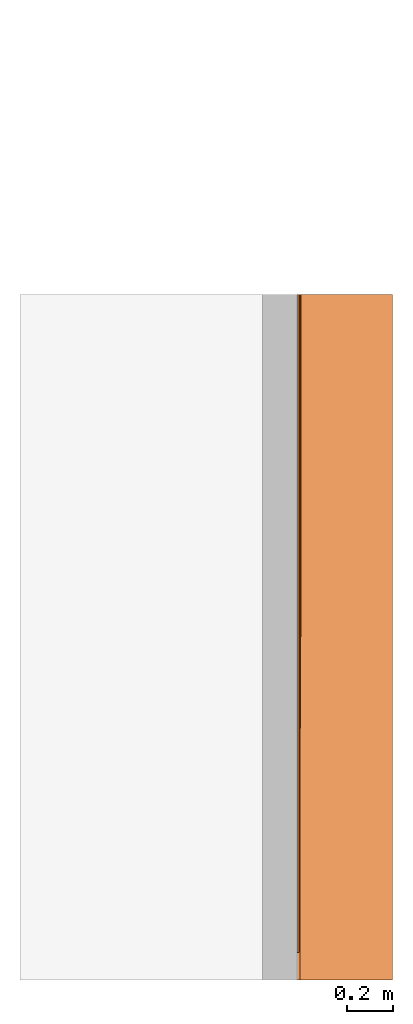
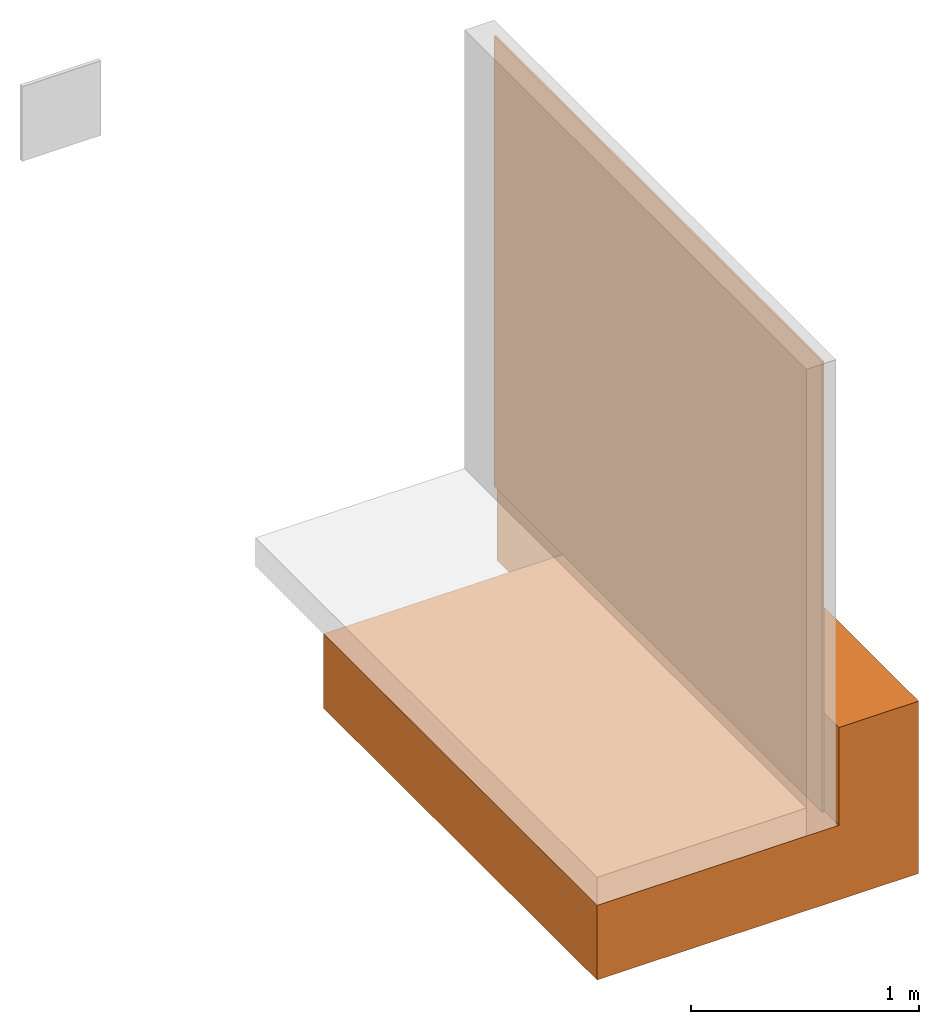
# One storey, part 2 of 2: 1 proxy.
"""IFC2X3 building model written with IfcOpenShell, lengths in metres."""

from ifc_helpers import new_model, entity, si_unit, converted_unit, derived_unit, direction, frame, frame_2d, origin, origin_2d_with_axis, place, context, subcontext, project, spatial, polyline, circle_curve, parameter, trimmed, segment, composite_curve, rectangle, outline, extrude, source, transform, mapped, material, material_list, type_object, type_shapes, element, save


model = new_model("IFC2X3")

# Units and contexts
model_context = context("Model", 3, precision=1e-05, world=origin(), true_north=direction((6.123031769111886e-17, 1.0)))
body_context = subcontext(model_context, "Body", "Model", "MODEL_VIEW")
ifc_project = project(units=[si_unit("LENGTHUNIT", "METRE"), si_unit("AREAUNIT", "SQUARE_METRE"), si_unit("VOLUMEUNIT", "CUBIC_METRE"), converted_unit("PLANEANGLEUNIT", "DEGREE", entity("IfcRatioMeasure", 0.017453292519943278), si_unit("PLANEANGLEUNIT", "RADIAN"), dimensions=[0, 0, 0, 0, 0, 0, 0]), si_unit("MASSUNIT", "GRAM", prefix="KILO"), derived_unit("MASSDENSITYUNIT", [(si_unit("MASSUNIT", "GRAM", prefix="KILO"), 1), (si_unit("LENGTHUNIT", "METRE"), -3)]), derived_unit("IONCONCENTRATIONUNIT", [(si_unit("MASSUNIT", "GRAM", prefix="KILO"), 1), (si_unit("LENGTHUNIT", "METRE"), -3)]), derived_unit("MOMENTOFINERTIAUNIT", [(si_unit("LENGTHUNIT", "METRE"), 4)]), si_unit("TIMEUNIT", "SECOND"), si_unit("FREQUENCYUNIT", "HERTZ"), si_unit("THERMODYNAMICTEMPERATUREUNIT", "DEGREE_CELSIUS"), derived_unit("THERMALTRANSMITTANCEUNIT", [(si_unit("MASSUNIT", "GRAM", prefix="KILO"), 1), (si_unit("THERMODYNAMICTEMPERATUREUNIT", "KELVIN"), -1), (si_unit("TIMEUNIT", "SECOND"), -3)]), derived_unit("THERMALCONDUCTANCEUNIT", [(si_unit("MASSUNIT", "GRAM", prefix="KILO"), 1), (si_unit("THERMODYNAMICTEMPERATUREUNIT", "KELVIN"), -1), (si_unit("TIMEUNIT", "SECOND"), -3), (si_unit("LENGTHUNIT", "METRE"), 1)]), derived_unit("VOLUMETRICFLOWRATEUNIT", [(si_unit("LENGTHUNIT", "METRE"), 3), (si_unit("TIMEUNIT", "SECOND"), -1)]), derived_unit("MASSFLOWRATEUNIT", [(si_unit("MASSUNIT", "GRAM", prefix="KILO"), 1), (si_unit("TIMEUNIT", "SECOND"), -1)]), derived_unit("ROTATIONALFREQUENCYUNIT", [(si_unit("TIMEUNIT", "SECOND"), -1)]), si_unit("ELECTRICCURRENTUNIT", "AMPERE"), si_unit("ELECTRICVOLTAGEUNIT", "VOLT"), si_unit("POWERUNIT", "WATT"), si_unit("FORCEUNIT", "NEWTON", prefix="KILO"), si_unit("ILLUMINANCEUNIT", "LUX"), si_unit("LUMINOUSFLUXUNIT", "LUMEN"), si_unit("LUMINOUSINTENSITYUNIT", "CANDELA"), derived_unit("USERDEFINED", [(si_unit("MASSUNIT", "GRAM", prefix="KILO"), -1), (si_unit("LENGTHUNIT", "METRE"), -2), (si_unit("TIMEUNIT", "SECOND"), 3), (si_unit("LUMINOUSFLUXUNIT", "LUMEN"), 1)]), derived_unit("USERDEFINED", [(si_unit("MASSUNIT", "GRAM", prefix="KILO"), 1), (si_unit("TIMEUNIT", "SECOND"), -3), (si_unit("LENGTHUNIT", "METRE"), 3), (si_unit("ELECTRICCURRENTUNIT", "AMPERE"), -2)]), derived_unit("SOUNDPOWERUNIT", [(si_unit("MASSUNIT", "GRAM", prefix="KILO"), 1), (si_unit("TIMEUNIT", "SECOND"), -3), (si_unit("LENGTHUNIT", "METRE"), 2)]), derived_unit("SOUNDPRESSUREUNIT", [(si_unit("MASSUNIT", "GRAM", prefix="KILO"), 1), (si_unit("LENGTHUNIT", "METRE"), -1), (si_unit("TIMEUNIT", "SECOND"), -2)]), derived_unit("LINEARVELOCITYUNIT", [(si_unit("LENGTHUNIT", "METRE"), 1), (si_unit("TIMEUNIT", "SECOND"), -1)]), si_unit("PRESSUREUNIT", "PASCAL"), derived_unit("USERDEFINED", [(si_unit("MASSUNIT", "GRAM", prefix="KILO"), 1), (si_unit("LENGTHUNIT", "METRE"), -2), (si_unit("TIMEUNIT", "SECOND"), -2)]), derived_unit("LINEARFORCEUNIT", [(si_unit("MASSUNIT", "GRAM", prefix="KILO"), 1), (si_unit("TIMEUNIT", "SECOND"), -2)]), derived_unit("PLANARFORCEUNIT", [(si_unit("MASSUNIT", "GRAM", prefix="KILO"), 1), (si_unit("LENGTHUNIT", "METRE"), -1), (si_unit("TIMEUNIT", "SECOND"), -2)]), derived_unit("SPECIFICHEATCAPACITYUNIT", [(si_unit("THERMODYNAMICTEMPERATUREUNIT", "KELVIN"), -1), (si_unit("LENGTHUNIT", "METRE"), 2), (si_unit("TIMEUNIT", "SECOND"), -2)]), derived_unit("HEATINGVALUEUNIT", [(si_unit("LENGTHUNIT", "METRE"), 2), (si_unit("TIMEUNIT", "SECOND"), -2)]), derived_unit("VAPORPERMEABILITYUNIT", [(si_unit("LENGTHUNIT", "METRE"), -1), (si_unit("TIMEUNIT", "SECOND"), 1)]), derived_unit("DYNAMICVISCOSITYUNIT", [(si_unit("MASSUNIT", "GRAM", prefix="KILO"), 1), (si_unit("TIMEUNIT", "SECOND"), -1), (si_unit("LENGTHUNIT", "METRE"), -1)]), derived_unit("THERMALEXPANSIONCOEFFICIENTUNIT", [(si_unit("THERMODYNAMICTEMPERATUREUNIT", "KELVIN"), -1)]), derived_unit("MODULUSOFELASTICITYUNIT", [(si_unit("MASSUNIT", "GRAM", prefix="KILO"), 1), (si_unit("LENGTHUNIT", "METRE"), -1), (si_unit("TIMEUNIT", "SECOND"), -2)]), derived_unit("ISOTHERMALMOISTURECAPACITYUNIT", [(si_unit("LENGTHUNIT", "METRE"), 3), (si_unit("MASSUNIT", "GRAM", prefix="KILO"), -1)]), derived_unit("MOISTUREDIFFUSIVITYUNIT", [(si_unit("TIMEUNIT", "SECOND"), -1), (si_unit("LENGTHUNIT", "METRE"), 2)])], contexts=[model_context])

# Site, building, storey
site_placement = place(None, origin())
site = spatial("IfcSite", under=ifc_project, at=site_placement, Name="Default", CompositionType="ELEMENT")
building_placement = place(site_placement, origin())
building = spatial("IfcBuilding", under=site, at=building_placement, CompositionType="ELEMENT")
storey_placement = place(building_placement, frame((0.0, 0.0, -0.0025237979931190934)))
storey = spatial("IfcBuildingStorey", under=building, at=storey_placement, Name="ARQ Térreo", CompositionType="ELEMENT", Elevation=-0.0025237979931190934)

# Proxy
ifc_material_1 = material(Name="#argamassa")
ifc_material_2 = material(Name="#solo")
ifc_material_3 = material(Name="#Geotextil")
ifc_material_4 = material(Name="#Primer")
ifc_material_5 = material(Name="#Classic Poliéster")
ifc_material_6 = material(Name="#Chapisco")
ifc_material_list = material_list([ifc_material_1, ifc_material_2, ifc_material_3, ifc_material_4, ifc_material_5, ifc_material_6])
building_element_proxy_type = type_object("IfcBuildingElementProxyType", Name="IMPER:IMPER", PredefinedType="NOTDEFINED", material=ifc_material_list)
shared_shape = source(origin(), body_context, "Body", "SweptSolid", [
    extrude(rectangle(XDim=2.87896654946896, YDim=0.010000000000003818, at=origin_2d_with_axis()), frame((-0.3469704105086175, -1.2936132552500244, -0.0025237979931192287), z_axis=(0.0, 0.0, 1.0), x_axis=(0.0, -1.0, 0.0)), (0.0, 0.0, 1.0), 2.4138946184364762),
    extrude(rectangle(XDim=2.4000000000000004, YDim=1.2258489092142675, at=frame_2d((-1.1102230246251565e-16, 1.1102230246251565e-16), x_axis=(1.0, 0.0))), frame((-0.9498559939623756, -1.6541299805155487, -0.40252379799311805), z_axis=(0.0, 0.0, 1.0), x_axis=(0.0, 1.0, 0.0)), (0.0, 0.0, 1.0), 0.4000000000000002),
    extrude(rectangle(XDim=2.999999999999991, YDim=0.4039724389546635, at=frame_2d((-1.1102230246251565e-16, 0.0), x_axis=(1.0, 0.0))), frame((-0.1349453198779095, -1.3541299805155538, -0.4025237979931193), z_axis=(0.0, 0.0, 1.0), x_axis=(0.0, 1.0, 0.0)), (0.0, 0.0, 1.0), 0.9233418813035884),
    extrude(outline(composite_curve([segment(polyline([(-0.008387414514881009, -0.8529182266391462), (-0.005387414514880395, -0.8529182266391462)]), True, "CONTINUOUS"), segment(polyline([(-0.005387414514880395, -0.8529182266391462), (-0.005387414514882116, 0.21322955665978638)]), True, "CONTINUOUS"), segment(trimmed(circle_curve(frame_2d((0.0016125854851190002, 0.21322955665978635), x_axis=(1.0, 0.0)), 0.007000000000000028), [parameter(3.053332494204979e-13)], [parameter(179.9999999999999)], True, "PARAMETER"), False, "CONTINUOUS"), segment(trimmed(circle_curve(frame_2d((0.005091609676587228, 0.21322955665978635), x_axis=(1.0, 0.0)), 0.0035209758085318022), [parameter(179.99999999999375)], [parameter(8.651108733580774e-13)], True, "PARAMETER"), False, "CONTINUOUS"), segment(trimmed(circle_curve(frame_2d((0.0018311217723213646, 0.21322955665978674), x_axis=(1.0, 0.0)), 0.00026048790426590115), [parameter(359.9999999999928)], [parameter(180.00000000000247)], True, "PARAMETER"), False, "CONTINUOUS"), segment(polyline([(0.002091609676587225, 0.2132295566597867), (0.005091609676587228, 0.2132295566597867)]), True, "CONTINUOUS"), segment(trimmed(circle_curve(frame_2d((0.0018311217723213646, 0.21322955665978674), x_axis=(1.0, 0.0)), 0.003260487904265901), [parameter(359.99999999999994)], [parameter(179.99999999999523)], True, "PARAMETER"), True, "CONTINUOUS"), segment(trimmed(circle_curve(frame_2d((0.005091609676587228, 0.21322955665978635), x_axis=(1.0, 0.0)), 0.006520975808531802), [parameter(179.9999999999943)], [parameter(1.0177774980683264e-12)], True, "PARAMETER"), True, "CONTINUOUS"), segment(trimmed(circle_curve(frame_2d((0.0016125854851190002, 0.21322955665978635), x_axis=(1.0, 0.0)), 0.010000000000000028), [parameter(7.124442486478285e-13)], [parameter(179.99999999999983)], True, "PARAMETER"), True, "CONTINUOUS"), segment(polyline([(-0.008387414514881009, 0.21322955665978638), (-0.008387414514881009, -0.8529182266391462)]), True, "CONTINUOUS")], self_intersect=False)), frame((-0.32757168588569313, -1.3541299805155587, 0.21070575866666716), z_axis=(0.0, 1.0, 0.0), x_axis=(1.0, 0.0, 0.0)), (0.0, 0.0, 1.0), 1.5000000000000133),
    extrude(rectangle(XDim=0.0010388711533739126, YDim=2.7000000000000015, at=frame_2d((-3.3881317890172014e-17, 0.0), x_axis=(1.0, 0.0))), frame((-0.34145097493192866, -1.2041299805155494, -0.002523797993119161), z_axis=(0.0, 0.0, 1.0), x_axis=(-1.0, 0.0, 0.0)), (0.0, 0.0, 1.0), 2.212347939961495),
    extrude(rectangle(XDim=0.003999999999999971, YDim=2.4000000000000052, at=frame_2d((-3.382710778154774e-17, 0.0), x_axis=(1.0, 0.0))), frame((-0.33893153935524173, -1.054129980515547, -0.002523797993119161), z_axis=(0.0, 0.0, 1.0), x_axis=(-1.0, 0.0, 0.0)), (0.0, 0.0, 1.0), 1.965708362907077),
    extrude(rectangle(XDim=0.0009724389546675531, YDim=1.9000000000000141, at=frame_2d((-3.382710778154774e-17, 0.0), x_axis=(1.0, 0.0))), frame((-0.33644531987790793, -0.8041299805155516, -0.002523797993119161), z_axis=(0.0, 0.0, 1.0), x_axis=(-1.0, 0.0, 0.0)), (0.0, 0.0, 1.0), 1.548152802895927),
])
type_shapes(building_element_proxy_type, [shared_shape])
proxy_placement = place(storey_placement, frame((0.0, 0.0, 0.0025237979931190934)))
element("IfcBuildingElementProxy", 1, at=proxy_placement, inside=storey, type_object=building_element_proxy_type, material=ifc_material_list, Name="IMPER:IMPER:IMPER : IMPER:IMPER", ObjectType="IMPER:IMPER:IMPER : IMPER:IMPER", context=body_context, shape_type="MappedRepresentation", body=[
    mapped(shared_shape, transform((0.0, 0.0, 0.0), scale=1.0)),
])

save(model, "model.ifc")
